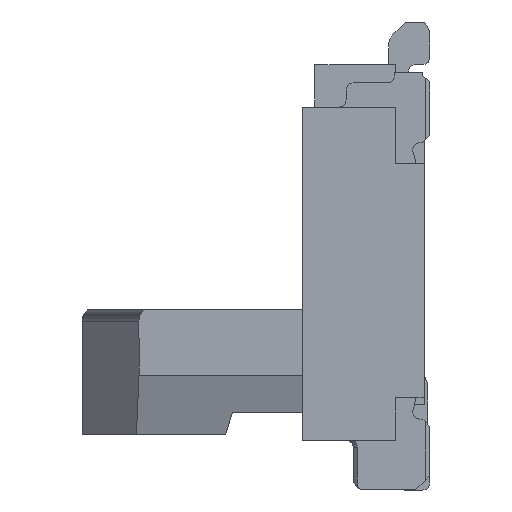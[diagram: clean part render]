
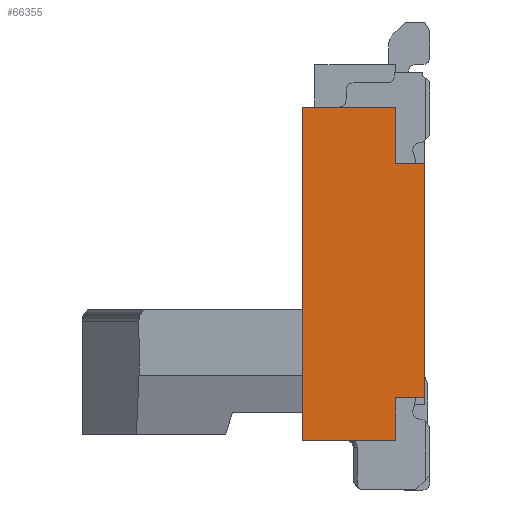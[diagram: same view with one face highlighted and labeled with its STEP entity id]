
A CAD part, left-side view. The second image highlights one B-rep face of the part: STEP entity #66355.
In plain terms, the highlighted planar face has unit normal (-1, 0, 0).
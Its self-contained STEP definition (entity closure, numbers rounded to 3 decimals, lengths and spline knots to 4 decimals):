
#2072 = VERTEX_POINT ( 'NONE', #80781 ) ;
#2688 = CARTESIAN_POINT ( 'NONE',  ( -11.75, 0.04, -0.6 ) ) ;
#3323 = VERTEX_POINT ( 'NONE', #11384 ) ;
#5826 = CARTESIAN_POINT ( 'NONE',  ( -11.75, 0.24, -2.65 ) ) ;
#7106 = CARTESIAN_POINT ( 'NONE',  ( -11.75, 0.9, -0.6 ) ) ;
#8283 = VERTEX_POINT ( 'NONE', #20074 ) ;
#11095 = DIRECTION ( 'NONE',  ( 0., 0., -1. ) ) ;
#11127 = ORIENTED_EDGE ( 'NONE', *, *, #13728, .F. ) ;
#11353 = VECTOR ( 'NONE', #42560, 1000. ) ;
#11384 = CARTESIAN_POINT ( 'NONE',  ( -11.75, 0.04, -2.65 ) ) ;
#11859 = ORIENTED_EDGE ( 'NONE', *, *, #12418, .F. ) ;
#12418 = EDGE_CURVE ( 'NONE', #99460, #3323, #83817, .T. ) ;
#13580 = VERTEX_POINT ( 'NONE', #78772 ) ;
#13728 = EDGE_CURVE ( 'NONE', #13580, #8283, #80914, .T. ) ;
#15853 = CARTESIAN_POINT ( 'NONE',  ( -11.75, 0.04, -2.65 ) ) ;
#18618 = DIRECTION ( 'NONE',  ( 0., 0., -1. ) ) ;
#18762 = ORIENTED_EDGE ( 'NONE', *, *, #54982, .F. ) ;
#18949 = CARTESIAN_POINT ( 'NONE',  ( -11.75, 0.04, -0.6 ) ) ;
#20074 = CARTESIAN_POINT ( 'NONE',  ( -11.75, 0.9, -2.95 ) ) ;
#20848 = VERTEX_POINT ( 'NONE', #5826 ) ;
#21298 = VECTOR ( 'NONE', #100283, 1000. ) ;
#24178 = DIRECTION ( 'NONE',  ( 0., 1., 0. ) ) ;
#25814 = CARTESIAN_POINT ( 'NONE',  ( -11.75, 0.04, -1. ) ) ;
#26476 = LINE ( 'NONE', #25814, #21298 ) ;
#26570 = ORIENTED_EDGE ( 'NONE', *, *, #59727, .T. ) ;
#27301 = VECTOR ( 'NONE', #48799, 1000. ) ;
#30819 = LINE ( 'NONE', #100746, #11353 ) ;
#31682 = CARTESIAN_POINT ( 'NONE',  ( -11.75, 0.24, -0.6 ) ) ;
#32346 = VERTEX_POINT ( 'NONE', #99950 ) ;
#38484 = CARTESIAN_POINT ( 'NONE',  ( -11.75, 0.04, -1. ) ) ;
#42161 = VECTOR ( 'NONE', #18618, 1000. ) ;
#42560 = DIRECTION ( 'NONE',  ( 0., 1., 0. ) ) ;
#43592 = VECTOR ( 'NONE', #24178, 1000. ) ;
#48799 = DIRECTION ( 'NONE',  ( 0., 0., 1. ) ) ;
#54804 = EDGE_CURVE ( 'NONE', #3323, #20848, #87865, .T. ) ;
#54982 = EDGE_CURVE ( 'NONE', #20848, #13580, #66976, .T. ) ;
#58411 = ORIENTED_EDGE ( 'NONE', *, *, #54804, .F. ) ;
#59727 = EDGE_CURVE ( 'NONE', #2072, #89689, #30819, .T. ) ;
#60769 = DIRECTION ( 'NONE',  ( 1., 0., 0. ) ) ;
#64408 = CARTESIAN_POINT ( 'NONE',  ( -11.75, 0.04, -2.95 ) ) ;
#66022 = DIRECTION ( 'NONE',  ( 0., 1., 0. ) ) ;
#66355 = ADVANCED_FACE ( 'NONE', ( #94375 ), #93873, .F. ) ;
#66976 = LINE ( 'NONE', #68021, #89114 ) ;
#67292 = AXIS2_PLACEMENT_3D ( 'NONE', #2688, #60769, #11095 ) ;
#67920 = ORIENTED_EDGE ( 'NONE', *, *, #69983, .F. ) ;
#68021 = CARTESIAN_POINT ( 'NONE',  ( -11.75, 0.24, -0.6 ) ) ;
#69983 = EDGE_CURVE ( 'NONE', #2072, #32346, #83078, .T. ) ;
#74080 = LINE ( 'NONE', #7106, #27301 ) ;
#74718 = EDGE_CURVE ( 'NONE', #8283, #89689, #74080, .T. ) ;
#74941 = CARTESIAN_POINT ( 'NONE',  ( -11.75, 0.9, -0.6 ) ) ;
#78100 = EDGE_CURVE ( 'NONE', #32346, #99460, #26476, .T. ) ;
#78772 = CARTESIAN_POINT ( 'NONE',  ( -11.75, 0.24, -2.95 ) ) ;
#80781 = CARTESIAN_POINT ( 'NONE',  ( -11.75, 0.24, -0.6 ) ) ;
#80914 = LINE ( 'NONE', #64408, #103004 ) ;
#82624 = ORIENTED_EDGE ( 'NONE', *, *, #78100, .F. ) ;
#83078 = LINE ( 'NONE', #31682, #102560 ) ;
#83817 = LINE ( 'NONE', #18949, #42161 ) ;
#87865 = LINE ( 'NONE', #15853, #43592 ) ;
#89114 = VECTOR ( 'NONE', #93076, 1000. ) ;
#89689 = VERTEX_POINT ( 'NONE', #74941 ) ;
#93076 = DIRECTION ( 'NONE',  ( 0., 0., -1. ) ) ;
#93873 = PLANE ( 'NONE',  #67292 ) ;
#94375 = FACE_OUTER_BOUND ( 'NONE', #101624, .T. ) ;
#98166 = DIRECTION ( 'NONE',  ( 0., 0., -1. ) ) ;
#99460 = VERTEX_POINT ( 'NONE', #38484 ) ;
#99950 = CARTESIAN_POINT ( 'NONE',  ( -11.75, 0.24, -1. ) ) ;
#100283 = DIRECTION ( 'NONE',  ( 0., -1., 0. ) ) ;
#100746 = CARTESIAN_POINT ( 'NONE',  ( -11.75, 0.04, -0.6 ) ) ;
#101042 = ORIENTED_EDGE ( 'NONE', *, *, #74718, .F. ) ;
#101624 = EDGE_LOOP ( 'NONE', ( #11127, #18762, #58411, #11859, #82624, #67920, #26570, #101042 ) ) ;
#102560 = VECTOR ( 'NONE', #98166, 1000. ) ;
#103004 = VECTOR ( 'NONE', #66022, 1000. ) ;
